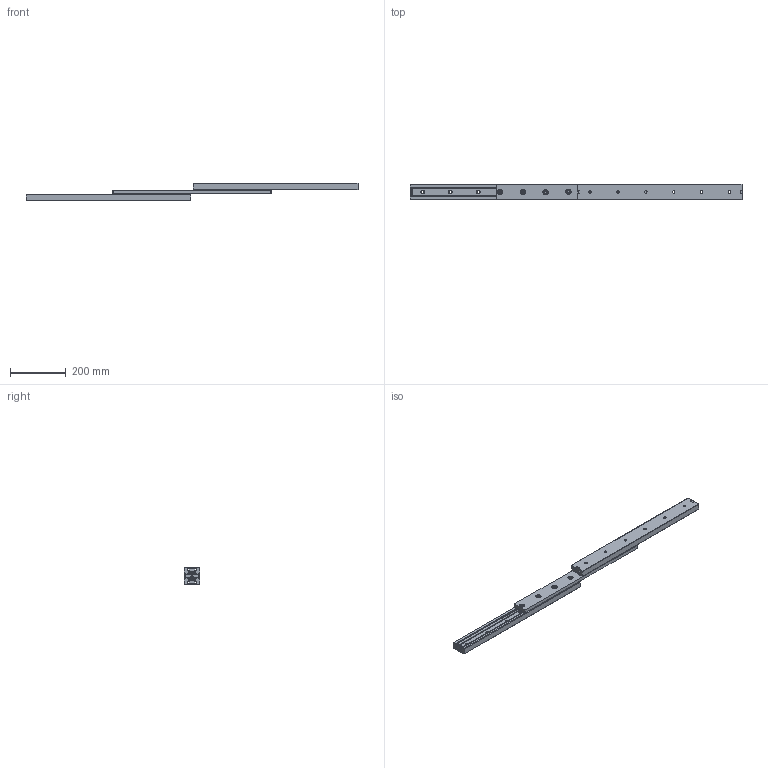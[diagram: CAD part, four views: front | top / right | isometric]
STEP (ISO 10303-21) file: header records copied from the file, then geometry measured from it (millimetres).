
FILE_DESCRIPTION (( 'STEP AP214' ), '1' );
FILE_NAME ('LSIM55DFL.STEP', '2021-06-14T01:48:52', ( '' ), ( '' ), 'SwSTEP 2.0', 'SolidWorks 2019', '' );
FILE_SCHEMA (( 'AUTOMOTIVE_DESIGN' ));
Length unit declared in the file: millimetre
Products named in the file (4): LSIM55DFLリテーナ; LSIM55DFL; LSIM55ストッパー; LSIM55DFLレール
Assembly tree (7 placements, depth 2):
  LSIM55DFL
    LSIM55DFLリテーナ
    LSIM55DFLレール  x2
    LSIM55ストッパー  x4
Bounding box: 1190 x 55 x 63.5 mm (x, y, z)
Volume: 1383638.7 mm3; surface area: 343627.4 mm2
Topology: 7 solids, 7 shells, 504 faces, 1086 edges, 688 vertices
Faces by surface type: plane 264, cylinder 128, cone 104, torus 8
Full cylindrical faces by diameter (mm): 3.3 x8, 4 x8, 7.5 x8, 8 x8, 9 x12, 12.3 x8, 14 x12, 16 x8, 19 x8, 24 x16
Entity records: 8905 total; most frequent: CARTESIAN_POINT 1846, DIRECTION 1447, ORIENTED_EDGE 1306, EDGE_CURVE 653, AXIS2_PLACEMENT_3D 627, EDGE_LOOP 509, VERTEX_POINT 450, FACE_OUTER_BOUND 419
